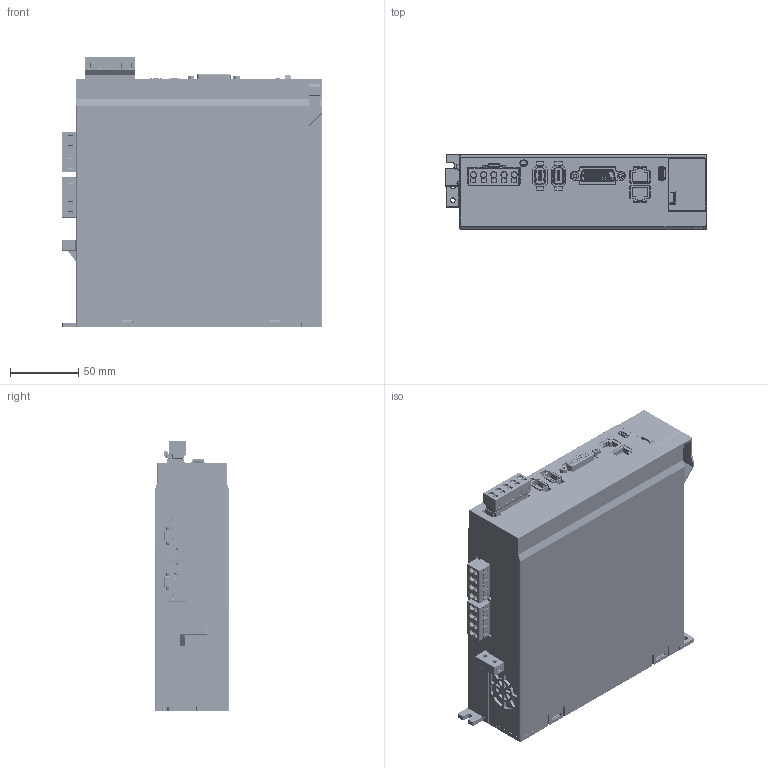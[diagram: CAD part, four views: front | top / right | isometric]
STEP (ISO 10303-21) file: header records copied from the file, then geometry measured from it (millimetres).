
FILE_DESCRIPTION((''),'2;1');
FILE_NAME('2ES3-04BNI_ASM','2026-03-03T11:45:16',('Admin'),(''),'CREO PARAMETRIC BY PTC INC, 2020074','CREO PARAMETRIC BY PTC INC, 2020074','');
FILE_SCHEMA(('CONFIG_CONTROL_DESIGN'));
Products named in the file (38): 2ES3-04BNI-DOWN; 2ES3-04BNI-UP; 2ES3-04BNI-PCB; DB26; USER_LIBRARY-53460-0611_S; 9EDGRC-7_5-05P-1Y-100Z_H__; 9EDGRC-7_5-04P-1Y-100Z_H; 9EDGRC-7_5-04P; RJ45-2; STGIB10CH60TS-L; D25SB80; 01008-UCAF004-A_TY0001; _X2_58515C014F53_X0_; TO-263_X2_684667B6_X0_-1462; TO-263_X2_684667B6_X0_-1463; TO-263_X2_684667B6_X0_-1464; TO-263_X2_684667B6_X0_-83_ASM; T020N065E_6__; D220E7L_5__; _X2_95215C42_X0_50UM-1488; _X2_95215C42_X0_50UM-1489; _X2_95215C42_X0_50UM-107_ASM; 12MIL_X2_94DD4E1D_X0_-115; 12MIL_X2_94DD4E1D_X0_-123; 5MIL_X2_94DD4E1D_X0_; 12MIL_X2_94DD4E1D_X0_-139; TO-263-JT020N065SED_1_ASM; TO-263-JT020N065SED_ASM; 2ES3-04BNI-PCBA_ASM; 2ES3-04BNI-DUCT; 9EDGK-7_5-04P-1Y-1000A_Z_H_; AS2E-PCB-K; COVER; RXLB-50W2C-50R-J; RXLB-75W-50R-J-3963; 3015-B; 9EDGK-7_5-05P-1Y-1000A_Z_H_; 2ES3-04BNI_ASM
Assembly tree (40 placements, depth 6):
  2ES3-04BNI_ASM
    2ES3-04BNI-DOWN
    2ES3-04BNI-UP
    2ES3-04BNI-PCBA_ASM
      2ES3-04BNI-PCB
      DB26
      USER_LIBRARY-53460-0611_S  x2
      9EDGRC-7_5-05P-1Y-100Z_H__
      9EDGRC-7_5-04P-1Y-100Z_H
      9EDGRC-7_5-04P
      RJ45-2
      STGIB10CH60TS-L  x2
      D25SB80
      01008-UCAF004-A_TY0001
      TO-263-JT020N065SED_ASM
        TO-263-JT020N065SED_1_ASM
          _X2_58515C014F53_X0_
          TO-263_X2_684667B6_X0_-83_ASM
            TO-263_X2_684667B6_X0_-1462
            TO-263_X2_684667B6_X0_-1463
            TO-263_X2_684667B6_X0_-1464
          T020N065E_6__
          D220E7L_5__
          _X2_95215C42_X0_50UM-107_ASM
            _X2_95215C42_X0_50UM-1488
            _X2_95215C42_X0_50UM-1489
          12MIL_X2_94DD4E1D_X0_-115
          12MIL_X2_94DD4E1D_X0_-123
          5MIL_X2_94DD4E1D_X0_
          12MIL_X2_94DD4E1D_X0_-139
    2ES3-04BNI-DUCT
    9EDGK-7_5-04P-1Y-1000A_Z_H_  x2
    AS2E-PCB-K
    COVER
    RXLB-50W2C-50R-J
    RXLB-75W-50R-J-3963
    3015-B
    9EDGK-7_5-05P-1Y-1000A_Z_H_
Bounding box: 191.6 x 55 x 198.69 mm (x, y, z)
Volume: 2102795.7 mm3; surface area: 391777.7 mm2
Topology: 35 solids, 57 shells, 9864 faces, 27348 edges, 18036 vertices
Faces by surface type: plane 7162, cylinder 1707, cone 277, extrusion 265, torus 221, bspline 159, sphere 73
Entity records: 283371 total; most frequent: CARTESIAN_POINT 65516, ORIENTED_EDGE 47068, DIRECTION 41899, EDGE_CURVE 23534, VECTOR 18877, LINE 18640, VERTEX_POINT 15604, AXIS2_PLACEMENT_3D 11511
